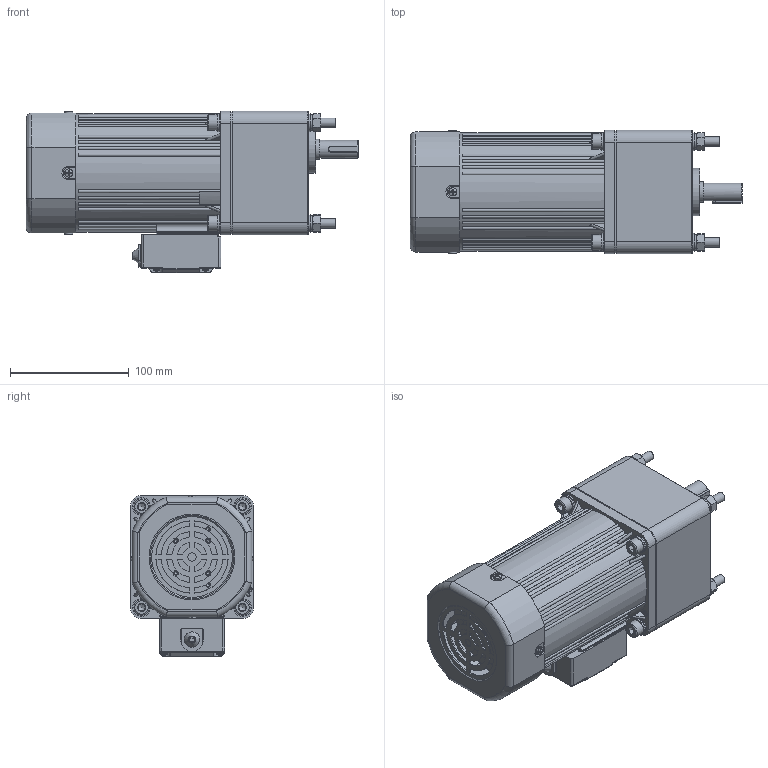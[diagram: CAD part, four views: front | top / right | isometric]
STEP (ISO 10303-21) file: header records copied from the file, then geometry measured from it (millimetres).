
FILE_DESCRIPTION(/* description */ (''),/* implementation_level */ '2;1');
FILE_NAME(/* name */ '6RK160-200RGUC·TF_6GU3-750K-C·15T长款接线盒.stp',/* time_stamp */ '2025-04-13T17:01:29+08:00',/* author */ (''),/* organization */ (''),/* preprocessor_version */ 'ST-DEVELOPER v18.102',/* originating_system */ 'SIEMENS PLM Software NX 2027',/* authorisation */ '');
FILE_SCHEMA (('AP203_CONFIGURATION_CONTROLLED_3D_DESIGN_OF_MECHANICAL_PARTS_AND_ASSEMBLIES_MIM_LF { 1 0 10303 403 2 1 2}'));
Products named in the file (1): 6RK160-200CC·RF_6GU3-750K-C·15T_stp_objects
Bounding box: 279.5 x 104.06 x 136.03 mm (x, y, z)
Volume: 1009692.2 mm3; surface area: 305889.3 mm2
Topology: 30 solids, 30 shells, 1940 faces, 5019 edges, 3205 vertices
Faces by surface type: plane 825, cylinder 583, cone 197, bspline 183, torus 116, sphere 36
Full cylindrical faces by diameter (mm): 2.2 x2, 2.5 x2, 2.9 x4, 3 x14, 3.5 x6, 3.6 x4, 4 x5, 4.2 x1, 4.55 x1, 4.8 x1, 5.15 x1, 5.6 x4, 6 x2, 6.8 x4, 6.985 x4, 7 x2, 7.76 x4, 8 x1, 8.4 x8, 8.5 x4, 9 x8, 10 x2, 13 x5, 14 x5, 15 x10, 15.5 x1, 17 x1, 17.3 x1, 19 x1, 21 x1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
Entity records: 58837 total; most frequent: CARTESIAN_POINT 13759, ORIENTED_EDGE 9178, DIRECTION 8963, EDGE_CURVE 4589, AXIS2_PLACEMENT_3D 3490, VERTEX_POINT 3075, EDGE_LOOP 2388, LINE 1983
